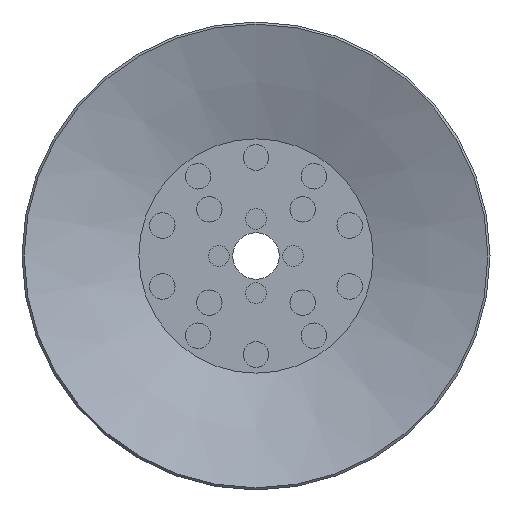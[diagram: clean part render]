
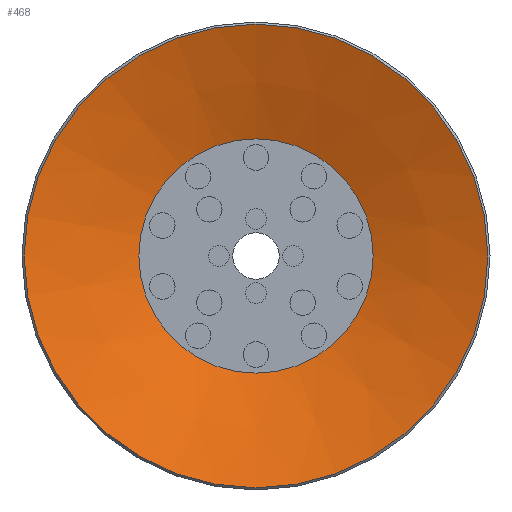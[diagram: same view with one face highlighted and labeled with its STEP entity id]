
A CAD part, front view. The second image highlights one B-rep face of the part: STEP entity #468.
In plain terms, the highlighted conical face has half-angle 70 degrees and reference radius 10 mm.
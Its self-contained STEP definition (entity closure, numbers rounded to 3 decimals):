
#468=ADVANCED_FACE('',(#698,#699),#700,.F.);
#698=FACE_BOUND('',#1037,.T.);
#699=FACE_OUTER_BOUND('',#1038,.T.);
#700=CONICAL_SURFACE('',#1039,10.0,1.222);
#1037=EDGE_LOOP('',(#1667));
#1038=EDGE_LOOP('',(#1668));
#1039=AXIS2_PLACEMENT_3D('',#1669,#1670,#1671);
#1667=ORIENTED_EDGE('',*,*,#2068,.T.);
#1668=ORIENTED_EDGE('',*,*,#2069,.F.);
#1669=CARTESIAN_POINT('',(0.0,0.,0.));
#1670=DIRECTION('',(0.0,0.,-1.0));
#1671=DIRECTION('',(0.0,1.0,0.));
#2068=EDGE_CURVE('',#2335,#2335,#2336,.T.);
#2069=EDGE_CURVE('',#2337,#2337,#2338,.T.);
#2335=VERTEX_POINT('',#2967);
#2336=CIRCLE('',#2968,5.055);
#2337=VERTEX_POINT('',#2969);
#2338=CIRCLE('',#2970,10.0);
#2967=CARTESIAN_POINT('',(0.0,-5.055,1.8));
#2968=AXIS2_PLACEMENT_3D('',#3267,#3268,#3269);
#2969=CARTESIAN_POINT('',(0.0,-10.0,0.));
#2970=AXIS2_PLACEMENT_3D('',#3270,#3271,#3272);
#3267=CARTESIAN_POINT('',(0.0,0.,1.8));
#3268=DIRECTION('',(0.0,0.,1.0));
#3269=DIRECTION('',(0.0,-1.0,0.));
#3270=CARTESIAN_POINT('',(0.0,0.,0.));
#3271=DIRECTION('',(0.0,0.,1.0));
#3272=DIRECTION('',(0.0,-1.0,0.));
